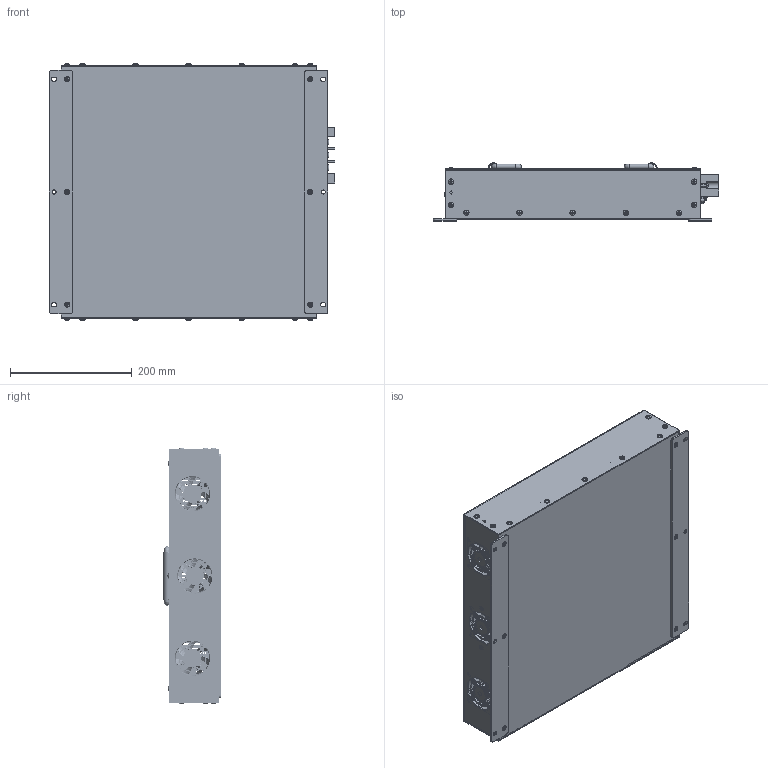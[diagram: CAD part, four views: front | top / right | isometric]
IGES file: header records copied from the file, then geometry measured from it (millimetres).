
Global section: file name: VW3COM_HANDLE2; native system: Autodesk Inventor 2021; preprocessor: unknown; author: eunsol jang; date: 20250409.161138; units: inch
Bounding box: 468 x 95.2 x 421.84 mm (x, y, z)
Volume: 910402.6 mm3; surface area: 1138307.2 mm2
Topology: 15 solids, 15 shells, 4052 faces, 12163 edges, 8508 vertices
Faces by surface type: bspline 4052
